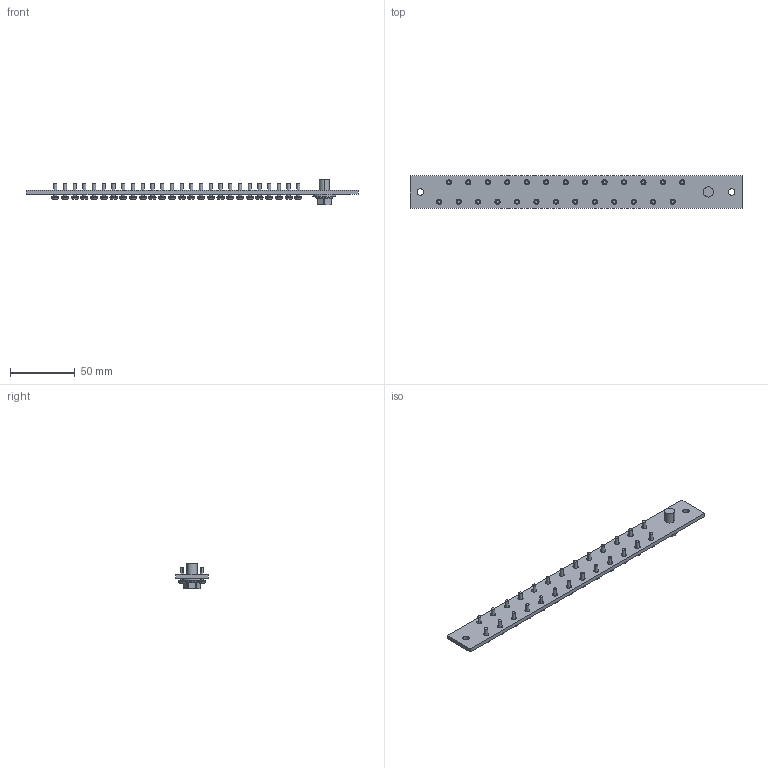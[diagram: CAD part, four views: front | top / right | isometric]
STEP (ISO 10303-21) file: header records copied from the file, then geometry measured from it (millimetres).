
FILE_DESCRIPTION(('Creo Elements/Direct Modeling STEP Export'),'2;1');
FILE_NAME('27.stp','2025-07-24T17:30:27',(''),(''),'PTC Creo Elements/Direct Modeling STEP processor for AP214 (Solid Model)','PTC Creo Elements/Direct Modeling 19.0 09-May-2014 (C) Parametric Technology GmbH','');
FILE_SCHEMA(('AUTOMOTIVE_DESIGN { 1 0 10303 214 1 1 1 1 }'));
Length unit declared in the file: millimetre
Products named in the file (27): QUILT_3.PRT; QUILT_2.PRT; QUILT_1.PRT; USER_LIBRARY-SAN_ZU_HE_LUO_S_1_.PRT; M5_1_2.ASM; A1.ASM; M5_1_1_1_1_1_1_1_1_1_1_1_1.ASM; M5_1_1_1_1_1_1_1_1_1_1_1.ASM; M5_1_1_1_1_1_1_1_1_1_1.ASM; M5_1_1_1_1_1_1_1_1_1.ASM; M5_1_1_1_1_1_1_1_1.ASM; M5_1_1_1_1_1_1_1.ASM; M5_1_1_1_1_1_1.ASM; M5_1_1_1_1_1.ASM; M5_1_1_1_1.ASM; M5_1_1_1.ASM; M5_1_1.ASM; M5_1.ASM; M5.ASM; HOLD_1-45500.ASM; HOLD.ASM; CU.PRT; SCREW_1_2_PRT.PRT; SCREW_1_1_PRT.PRT; SCREW_1_ASM.ASM; SCREW_0723_STP.ASM; 27.stp
Assembly tree (51 placements, depth 4):
  27.stp
    SCREW_0723_STP.ASM
      SCREW_1_ASM.ASM
        SCREW_1_1_PRT.PRT
        SCREW_1_2_PRT.PRT
    CU.PRT
    HOLD.ASM
    HOLD_1-45500.ASM
    M5.ASM
      M5_1_2.ASM
        USER_LIBRARY-SAN_ZU_HE_LUO_S_1_.PRT
        QUILT_1.PRT
        QUILT_2.PRT
        QUILT_3.PRT
    M5_1.ASM
      M5_1_2.ASM
        USER_LIBRARY-SAN_ZU_HE_LUO_S_1_.PRT
        QUILT_1.PRT
        QUILT_2.PRT
        QUILT_3.PRT
    M5_1_1.ASM
      M5_1_2.ASM
        USER_LIBRARY-SAN_ZU_HE_LUO_S_1_.PRT
        QUILT_1.PRT
        QUILT_2.PRT
        QUILT_3.PRT
    M5_1_1_1.ASM
      M5_1_2.ASM
        USER_LIBRARY-SAN_ZU_HE_LUO_S_1_.PRT
        QUILT_1.PRT
        QUILT_2.PRT
        QUILT_3.PRT
    M5_1_1_1_1.ASM
      M5_1_2.ASM
        USER_LIBRARY-SAN_ZU_HE_LUO_S_1_.PRT
        QUILT_1.PRT
        QUILT_2.PRT
        QUILT_3.PRT
    M5_1_1_1_1_1.ASM
      M5_1_2.ASM
        USER_LIBRARY-SAN_ZU_HE_LUO_S_1_.PRT
        QUILT_1.PRT
        QUILT_2.PRT
        QUILT_3.PRT
    M5_1_1_1_1_1_1.ASM
      M5_1_2.ASM
        USER_LIBRARY-SAN_ZU_HE_LUO_S_1_.PRT
        QUILT_1.PRT
        QUILT_2.PRT
        QUILT_3.PRT
    M5_1_1_1_1_1_1_1.ASM
      M5_1_2.ASM
        USER_LIBRARY-SAN_ZU_HE_LUO_S_1_.PRT
        QUILT_1.PRT
        QUILT_2.PRT
        QUILT_3.PRT
    M5_1_1_1_1_1_1_1_1.ASM
      M5_1_2.ASM
        USER_LIBRARY-SAN_ZU_HE_LUO_S_1_.PRT
        QUILT_1.PRT
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Bounding box: 256 x 25 x 20 mm (x, y, z)
Volume: 22370.4 mm3; surface area: 23310.4 mm2
Topology: 55 solids, 55 shells, 1126 faces, 2853 edges, 1867 vertices
Faces by surface type: plane 630, cylinder 388, torus 108
Entity records: 5761 total; most frequent: CARTESIAN_POINT 871, DIRECTION 838, ORIENTED_EDGE 806, EDGE_CURVE 403, AXIS2_PLACEMENT_3D 323, VERTEX_POINT 267, EDGE_LOOP 218, VECTOR 192
